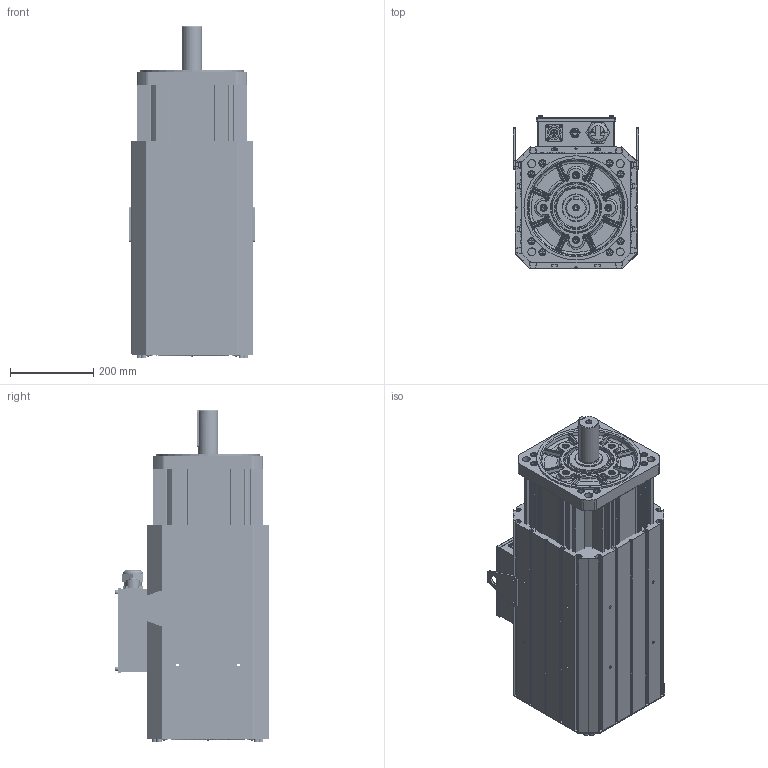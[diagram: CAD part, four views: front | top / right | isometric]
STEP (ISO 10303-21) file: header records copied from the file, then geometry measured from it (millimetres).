
FILE_DESCRIPTION (( 'STEP AP214' ), '1' );
FILE_NAME ('VM7-M26D-03015-D2FN.STEP', '2022-04-02T01:22:48', ( '' ), ( '' ), 'SwSTEP 2.0', 'SolidWorks 2014', '' );
FILE_SCHEMA (( 'AUTOMOTIVE_DESIGN' ));
Length unit declared in the file: millimetre
Products named in the file (3): VM7-M26D-03015-D2FN; 俋褲; 翋极
Assembly tree (2 placements, depth 2):
  VM7-M26D-03015-D2FN
    翋极
    俋褲
Bounding box: 302 x 368.5 x 798 mm (x, y, z)
Volume: 18775861.8 mm3; surface area: 4079417.7 mm2
Topology: 120 solids, 120 shells, 4432 faces, 11332 edges, 7180 vertices
Faces by surface type: plane 2597, cylinder 1089, bspline 445, cone 301
Entity records: 152572 total; most frequent: CARTESIAN_POINT 45525, ORIENTED_EDGE 22412, DIRECTION 21224, EDGE_CURVE 11206, VECTOR 7212, LINE 7212, VERTEX_POINT 7180, AXIS2_PLACEMENT_3D 7006
